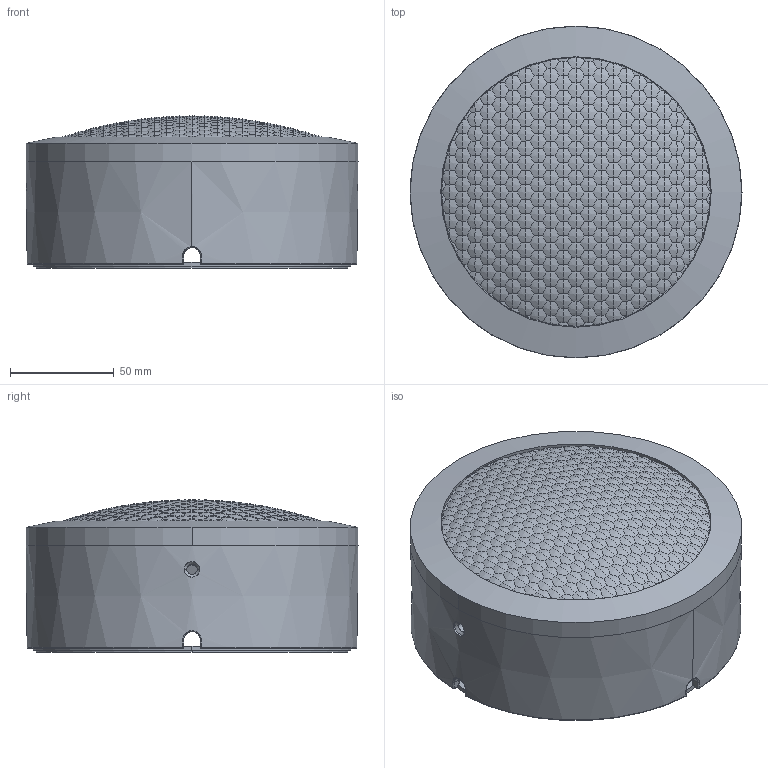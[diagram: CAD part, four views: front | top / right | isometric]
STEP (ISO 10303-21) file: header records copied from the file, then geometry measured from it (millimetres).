
FILE_DESCRIPTION((''),'2;1');
FILE_NAME('D8BM3034_ASM','2024-09-19T',('Administrator'),(''),'CREO PARAMETRIC BY PTC INC, 2015200','CREO PARAMETRIC BY PTC INC, 2015200','');
FILE_SCHEMA(('CONFIG_CONTROL_DESIGN'));
Length unit declared in the file: millimetre
Products named in the file (14): 160-DT_15; 7CW16_D_ANY-5740; SCREW-M12_1_18; XINGUIJIAO_14; GUIJIAOSAI-005_8; LUOMUZUJIAN_ASM_14_ASM; 7CW16_KAHUANG_ANY_7; PRT0020; 160-04_; 1LYFANGSHUIQUAN; 7LY-FAPAOMIAN; 7BM-GUANGYUANBAN; 7LY-BIBAN; D8BM3034_ASM
Assembly tree (16 placements, depth 3):
  D8BM3034_ASM
    160-DT_15
    7CW16_D_ANY-5740
    LUOMUZUJIAN_ASM_14_ASM
      SCREW-M12_1_18
      XINGUIJIAO_14
      GUIJIAOSAI-005_8
    7CW16_KAHUANG_ANY_7  x4
    PRT0020
    160-04_
    1LYFANGSHUIQUAN
    7LY-FAPAOMIAN
    7BM-GUANGYUANBAN
    7LY-BIBAN
Bounding box: 160 x 160 x 73.6 mm (x, y, z)
Volume: 339118.6 mm3; surface area: 298122.8 mm2
Topology: 15 solids, 15 shells, 2689 faces, 7293 edges, 4126 vertices
Faces by surface type: bspline 1026, cylinder 612, plane 575, torus 221, cone 132, sphere 123
Entity records: 116374 total; most frequent: CARTESIAN_POINT 61191, ORIENTED_EDGE 12716, DIRECTION 10027, EDGE_CURVE 6358, AXIS2_PLACEMENT_3D 4143, VERTEX_POINT 3919, EDGE_LOOP 2757, FACE_OUTER_BOUND 2581
